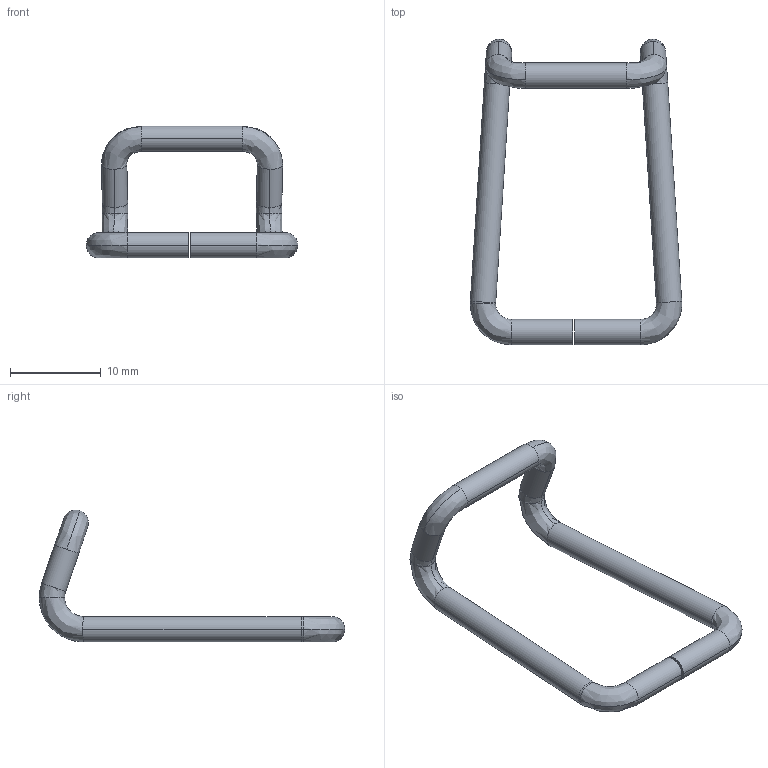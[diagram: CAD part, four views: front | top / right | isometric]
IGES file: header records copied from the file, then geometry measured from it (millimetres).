
Start section: SolidWorks IGES FILE using analytic representation for surfaces
Global section: file name: C:\Documents and Settings\lecoutey\Bureau\GP 544\541.200.00.IGS; native system: SolidWorks 2004 by SolidWorks Corporation; preprocessor: Version 5.3; author: lecoutey; date: 050329.152234; units: millimetre
Bounding box: 23.29 x 33.64 x 14.53 mm (x, y, z)
Surface area: 1026.8 mm2 (no closed solid volume)
Topology: 0 solids, 0 shells, 34 faces, 224 edges, 224 vertices
Faces by surface type: bspline 20, revolution 14
